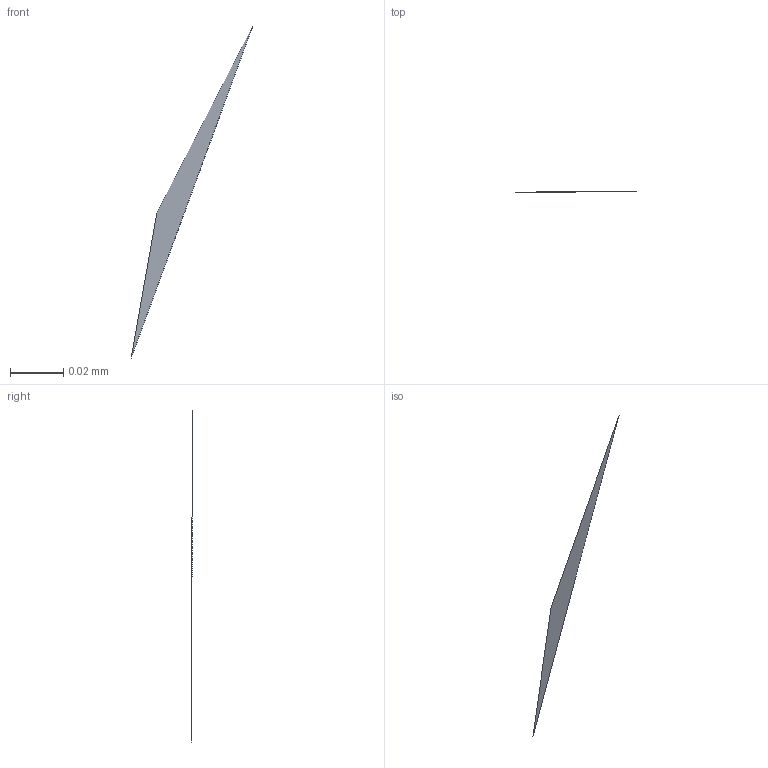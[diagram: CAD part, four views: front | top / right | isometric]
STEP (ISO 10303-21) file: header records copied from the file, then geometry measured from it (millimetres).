
FILE_DESCRIPTION(/* description */ ('STEP AP242 Edition 2','CAx-IF Rec.Pracs.---Representation and Presentation of Product Manufacturing Information (PMI)---4.0---2014-10-13','CAx-IF Rec.Pracs.---3D Tessellated Geometry---0.4---2014-09-14','2;1','CAx-IF Rec.Pracs.---User Defined Attributes---1.5---2016-08-15'),/* implementation_level */ '2;1');
FILE_NAME(/* name */ 'Assembly 1 - Part 61',/* time_stamp */ '2026-03-29T21:14:58Z',/* author */ (''),/* organization */ (''),/* preprocessor_version */ 'ST-DEVELOPER v20',/* originating_system */ 'ONSHAPE BY PTC INC, 1.212',/* authorisation */ ' ');
FILE_SCHEMA (('AP242_MANAGED_MODEL_BASED_3D_ENGINEERING_MIM_LF { 1 0 10303 442 3 1 4 }'));
Length unit declared in the file: metre
Products named in the file (1): Part 61
Bounding box: 0.05 x 0 x 0.12 mm (x, y, z)
Surface area: 0 mm2 (no closed solid volume)
Topology: 0 solids, 1 shells, 1 faces, 0 edges, 0 vertices
Faces by surface type: other 1
Entity records: 31 total; most frequent: DIRECTION 2, SHAPE_REPRESENTATION_RELATIONSHIP 1, TESSELLATED_SHAPE_REPRESENTATION 1, STYLED_ITEM 1, PRESENTATION_STYLE_ASSIGNMENT 1, SURFACE_STYLE_USAGE 1, SURFACE_SIDE_STYLE 1, SURFACE_STYLE_FILL_AREA 1
